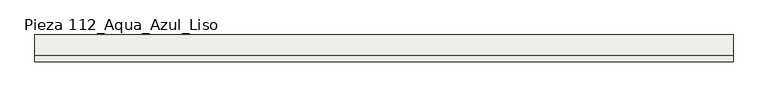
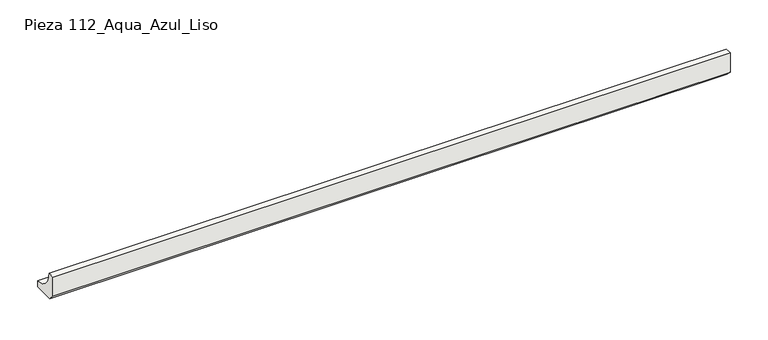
"""IFC4 building model written with IfcOpenShell, lengths in millimetres: slab geometry, ROSA GRES_112 : Pieza 112_Aqua_Azul_Liso."""

from ifc_helpers import new_model, si_unit, point, frame, frame_2d, origin, place, context, project, spatial, polyline, circle_curve, trimmed, segment, composite_curve, outline, extrude, source, transform, mapped, element, save


def pieza_112_aqua_azul_liso_07d13668(model_context):
    return source(origin(), model_context, "Body", "SweptSolid", [
        extrude(outline(composite_curve([segment(polyline([(0.0, 8.7114978), (0.0, 40.0), (9.9734114, 40.0)]), True, "CONTINUOUS"), segment(trimmed(circle_curve(frame_2d((39.9955547, 39.9955547)), 30.0221435), [point((9.9734114, 40.0))], [point((40.0, 9.9734114))], True, "CARTESIAN"), True, "CONTINUOUS"), segment(polyline([(40.0, 9.9734114), (40.0, 0.0), (8.7114978, 0.0), (0.0, 8.7114978)]), True, "CONTINUOUS")], self_intersect=False)), frame((0.0, 0.0, 0.0), z_axis=(1.0, 0.0, 0.0), x_axis=(0.0, 1.0, 0.0)), (0.0, 0.0, 1.0), 1033.9830819),
    ])


if __name__ == "__main__":
    model = new_model("IFC4")
    model_context = context("Model", 3, world=origin())
    ifc_project = project(units=[si_unit("LENGTHUNIT", "METRE", prefix="MILLI")], contexts=[model_context])
    site = spatial("IfcSite", under=ifc_project)
    building = spatial("IfcBuilding", under=site)
    placement = place(None, origin())
    pieza_112_aqua_azul_liso_shape = pieza_112_aqua_azul_liso_07d13668(model_context)
    element("IfcSlab", 1, ObjectType="ROSA GRES_112 : Pieza 112_Aqua_Azul_Liso", at=placement, inside=building, context=model_context, shape_type="MappedRepresentation", body=[
        mapped(pieza_112_aqua_azul_liso_shape, transform((0.0, 0.0, 0.0), x_axis=(1.0, 0.0, 0.0), y_axis=(0.0, 1.0, 0.0), z_axis=(0.0, 0.0, 1.0))),
    ])
    save(model, "model.ifc")
